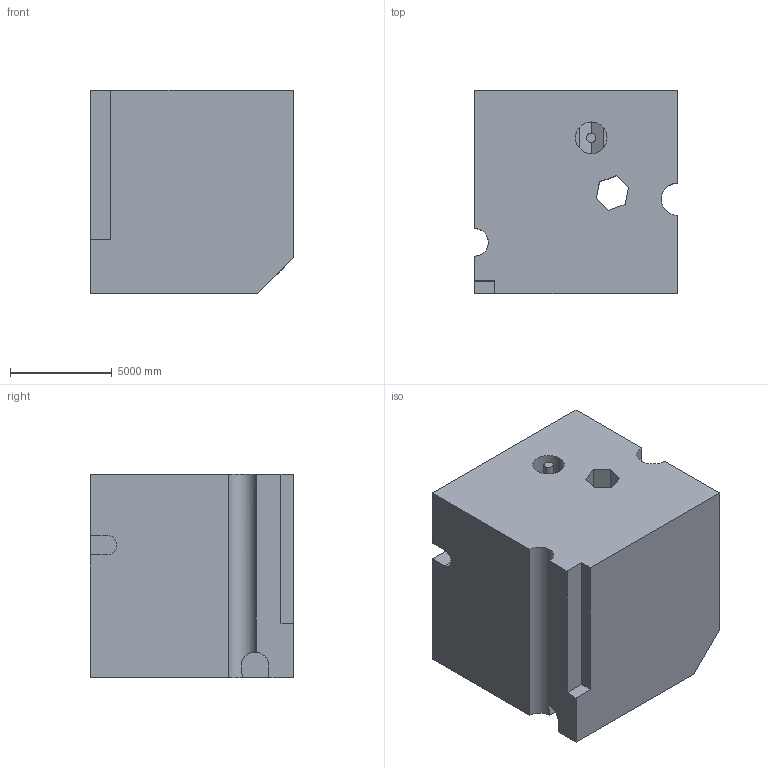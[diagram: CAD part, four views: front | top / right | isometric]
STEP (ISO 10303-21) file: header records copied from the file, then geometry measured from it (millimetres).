
FILE_DESCRIPTION (( 'STEP AP203' ), '1' );
FILE_NAME ('183.STEP', '2022-09-06T15:24:33', ( 'user' ), ( '' ), 'SwSTEP 2.0', 'SolidWorks 2021', '' );
FILE_SCHEMA (( 'CONFIG_CONTROL_DESIGN' ));
Length unit declared in the file: centimetre
Products named in the file (1): 183
Bounding box: 10000 x 10000 x 10000 mm (x, y, z)
Volume: 916129194739.4 mm3; surface area: 718885590.6 mm2
Topology: 2 solids, 2 shells, 49 faces, 141 edges, 94 vertices
Faces by surface type: plane 40, cylinder 9
Entity records: 1774 total; most frequent: CARTESIAN_POINT 415, ORIENTED_EDGE 282, DIRECTION 245, EDGE_CURVE 141, VECTOR 113, LINE 113, VERTEX_POINT 94, AXIS2_PLACEMENT_3D 66
